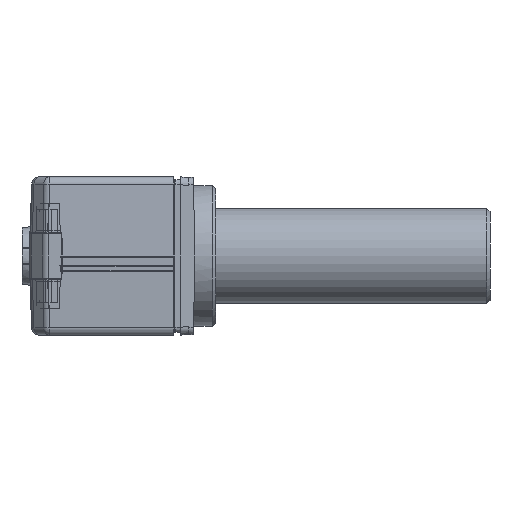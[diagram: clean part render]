
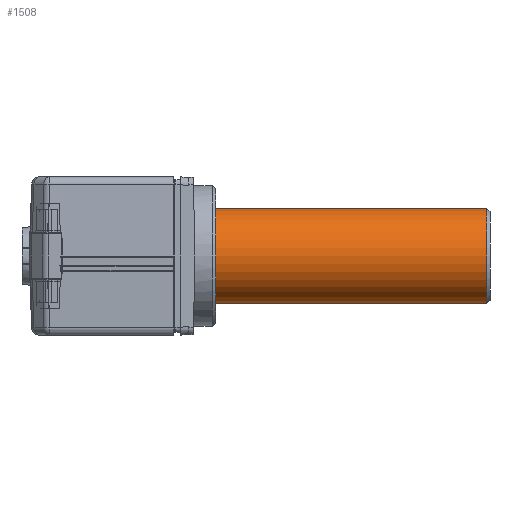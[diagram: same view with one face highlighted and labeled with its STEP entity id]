
A CAD part, left-side view. The second image highlights one B-rep face of the part: STEP entity #1508.
In plain terms, the highlighted cylindrical face has radius 3 mm (diameter 6 mm), a full revolution.
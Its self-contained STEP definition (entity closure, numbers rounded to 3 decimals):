
#1508=ADVANCED_FACE('',(#3111,#3112),#3113,.T.);
#3111=FACE_OUTER_BOUND('',#5300,.T.);
#3112=FACE_OUTER_BOUND('',#5301,.T.);
#3113=CYLINDRICAL_SURFACE('',#5302,3.0);
#5300=EDGE_LOOP('',(#9586));
#5301=EDGE_LOOP('',(#9587));
#5302=AXIS2_PLACEMENT_3D('',#9588,#9589,#9590);
#9586=ORIENTED_EDGE('',*,*,#12416,.T.);
#9587=ORIENTED_EDGE('',*,*,#12414,.T.);
#9588=CARTESIAN_POINT('',(0.,-20.092,0.0));
#9589=DIRECTION('',(-0.0,1.0,0.0));
#9590=DIRECTION('',(1.0,0.0,0.0));
#12414=EDGE_CURVE('',#15308,#15308,#15309,.T.);
#12416=EDGE_CURVE('',#15311,#15311,#15312,.T.);
#15308=VERTEX_POINT('',#21028);
#15309=CIRCLE('',#21029,3.);
#15311=VERTEX_POINT('',#21031);
#15312=CIRCLE('',#21032,3.0);
#21028=CARTESIAN_POINT('',(-3.,-19.75,0.));
#21029=AXIS2_PLACEMENT_3D('',#23053,#23054,#23055);
#21031=CARTESIAN_POINT('',(-3.0,-2.65,0.0));
#21032=AXIS2_PLACEMENT_3D('',#23056,#23057,#23058);
#23053=CARTESIAN_POINT('',(0.,-19.75,0.0));
#23054=DIRECTION('',(0.0,1.0,0.0));
#23055=DIRECTION('',(-1.0,0.0,0.));
#23056=CARTESIAN_POINT('',(0.,-2.65,0.0));
#23057=DIRECTION('',(0.0,-1.0,0.0));
#23058=DIRECTION('',(-1.0,0.0,0.0));
